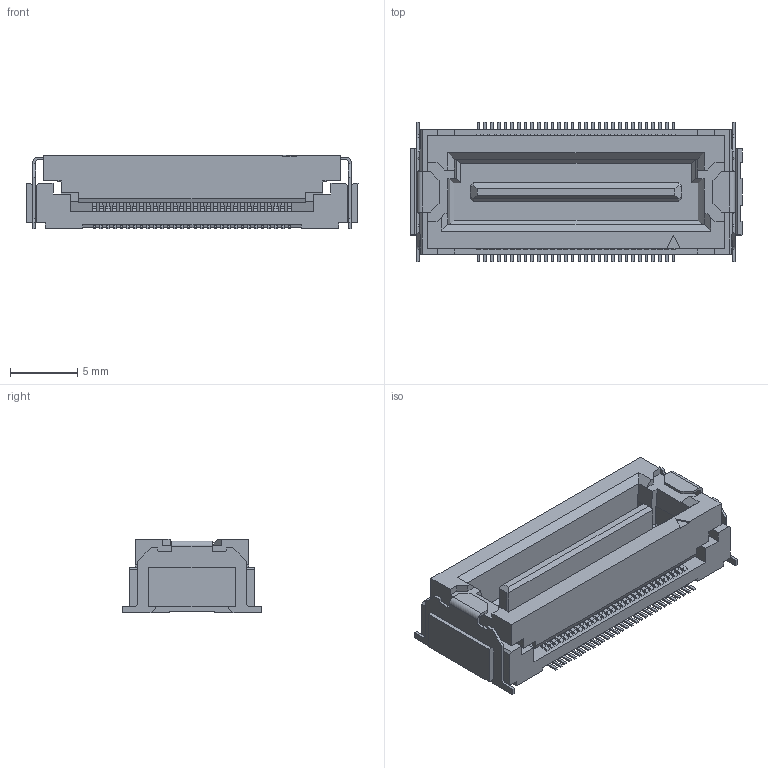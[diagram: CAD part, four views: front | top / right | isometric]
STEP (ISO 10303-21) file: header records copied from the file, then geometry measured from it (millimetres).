
FILE_DESCRIPTION(('Creo Elements/Direct Modeling STEP Export'),'2;1');
FILE_NAME('DT00-060S-T.stp','2017-08-08T19:42:45',(''),(''),'Creo Elements/Direct Modeling STEP processor for AP214 (Solid Model)','Creo Elements/Direct Modeling 19.0F 14-Feb-2017 (C) Parametric Technology GmbH','');
FILE_SCHEMA(('AUTOMOTIVE_DESIGN { 1 0 10303 214 1 1 1 1 }'));
Products named in the file (2): DT00-060S-T
Assembly tree (1 placements, depth 2):
  DT00-060S-T
    DT00-060S-T
Bounding box: 24.7 x 10.38 x 5.5 mm (x, y, z)
Volume: 730.2 mm3; surface area: 1553.7 mm2
Topology: 1 solids, 1 shells, 1872 faces, 5163 edges, 3354 vertices
Faces by surface type: plane 1496, cylinder 376
Entity records: 58137 total; most frequent: ORIENTED_EDGE 10326, CARTESIAN_POINT 10149, DIRECTION 9294, EDGE_CURVE 5163, VECTOR 4296, LINE 4296, VERTEX_POINT 3354, AXIS2_PLACEMENT_3D 2499
